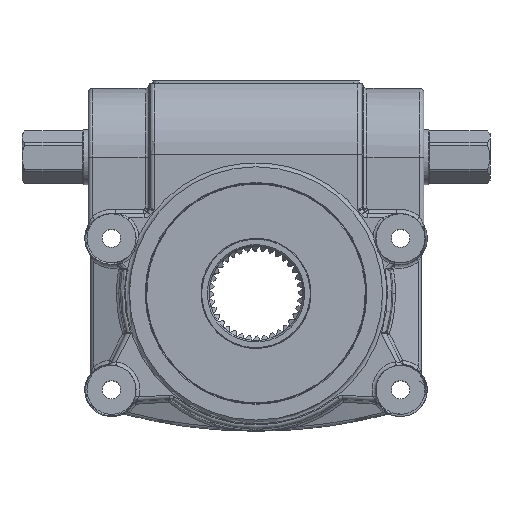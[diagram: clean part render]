
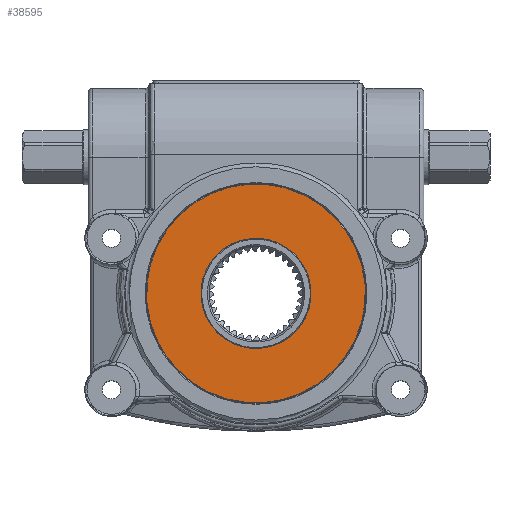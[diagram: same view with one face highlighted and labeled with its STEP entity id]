
A CAD part, top view. The second image highlights one B-rep face of the part: STEP entity #38595.
In plain terms, the highlighted planar face has unit normal (0, 0, 1).
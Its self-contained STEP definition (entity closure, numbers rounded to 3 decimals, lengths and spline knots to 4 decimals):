
#1661=PLANE('',#40788);
#1846=FACE_BOUND('',#8214,.T.);
#5974=FACE_OUTER_BOUND('',#8213,.T.);
#8213=EDGE_LOOP('',(#34420));
#8214=EDGE_LOOP('',(#34421));
#14739=CIRCLE('',#40767,3.975);
#14750=CIRCLE('',#40784,2.);
#18243=VERTEX_POINT('',#101600);
#18254=VERTEX_POINT('',#101634);
#23626=EDGE_CURVE('',#18243,#18243,#14739,.T.);
#23642=EDGE_CURVE('',#18254,#18254,#14750,.T.);
#34420=ORIENTED_EDGE('',*,*,#23626,.T.);
#34421=ORIENTED_EDGE('',*,*,#23642,.T.);
#38595=ADVANCED_FACE('',(#5974,#1846),#1661,.F.);
#40767=AXIS2_PLACEMENT_3D('',#101602,#47938,#47939);
#40784=AXIS2_PLACEMENT_3D('',#101635,#47977,#47978);
#40788=AXIS2_PLACEMENT_3D('',#101642,#47987,#47988);
#47938=DIRECTION('center_axis',(0.,0.,
1.));
#47939=DIRECTION('ref_axis',(-0.997,-0.08,0.));
#47977=DIRECTION('center_axis',(0.,0.,
-1.));
#47978=DIRECTION('ref_axis',(-0.997,-0.08,0.));
#47987=DIRECTION('center_axis',(0.,0.,
-1.));
#47988=DIRECTION('ref_axis',(-0.997,-0.08,0.));
#101600=CARTESIAN_POINT('',(3.9623,0.3171,3.));
#101602=CARTESIAN_POINT('Origin',(0.,0.,
3.));
#101634=CARTESIAN_POINT('',(1.9936,0.1596,3.));
#101635=CARTESIAN_POINT('Origin',(0.,0.,
3.));
#101642=CARTESIAN_POINT('Origin',(-0.3191,3.9873,3.));
